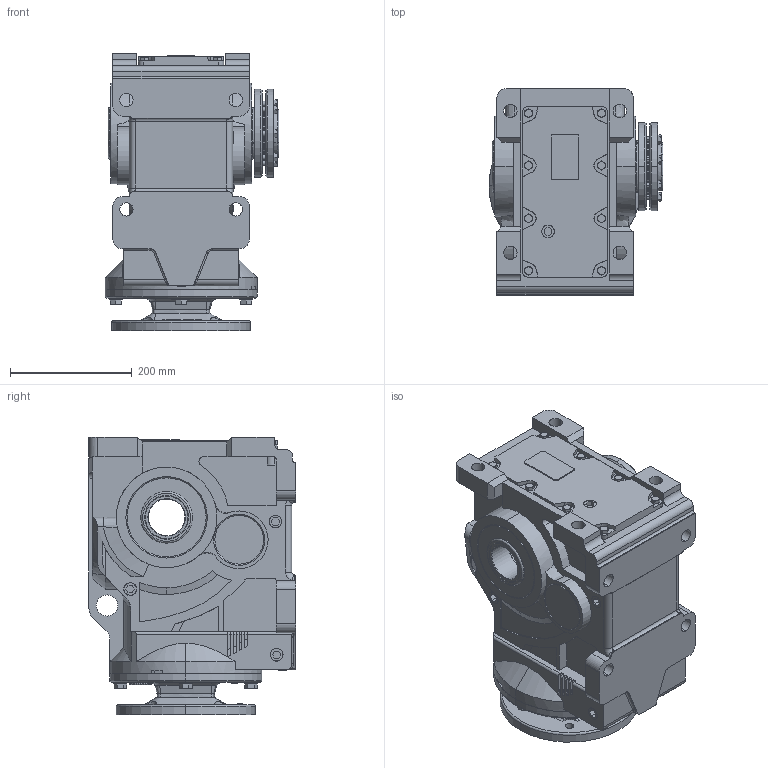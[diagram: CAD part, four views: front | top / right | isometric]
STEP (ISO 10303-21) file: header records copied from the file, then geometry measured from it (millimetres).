
FILE_DESCRIPTION (( 'STEP AP203' ), '1' );
FILE_NAME ('KHN87-182TC-A-POWER LOCK.STEP', '2020-12-04T06:18:28', ( 'Microsoft' ), ( 'Microsoft' ), 'SwSTEP 2.0', 'SolidWorks 2012', '' );
FILE_SCHEMA (( 'CONFIG_CONTROL_DESIGN' ));
Products named in the file (1): KHN87-182TC-A-POWER LOCK
Bounding box: 286 x 340.5 x 457 mm (x, y, z)
Volume: 23351627.3 mm3; surface area: 1042642.8 mm2
Topology: 2 solids, 27 shells, 1549 faces, 3891 edges, 2486 vertices
Faces by surface type: plane 688, cylinder 391, cone 287, bspline 143, torus 40
Entity records: 58534 total; most frequent: CARTESIAN_POINT 21972, ORIENTED_EDGE 7722, DIRECTION 7284, EDGE_CURVE 3861, AXIS2_PLACEMENT_3D 2629, VERTEX_POINT 2486, LINE 2026, VECTOR 2026
